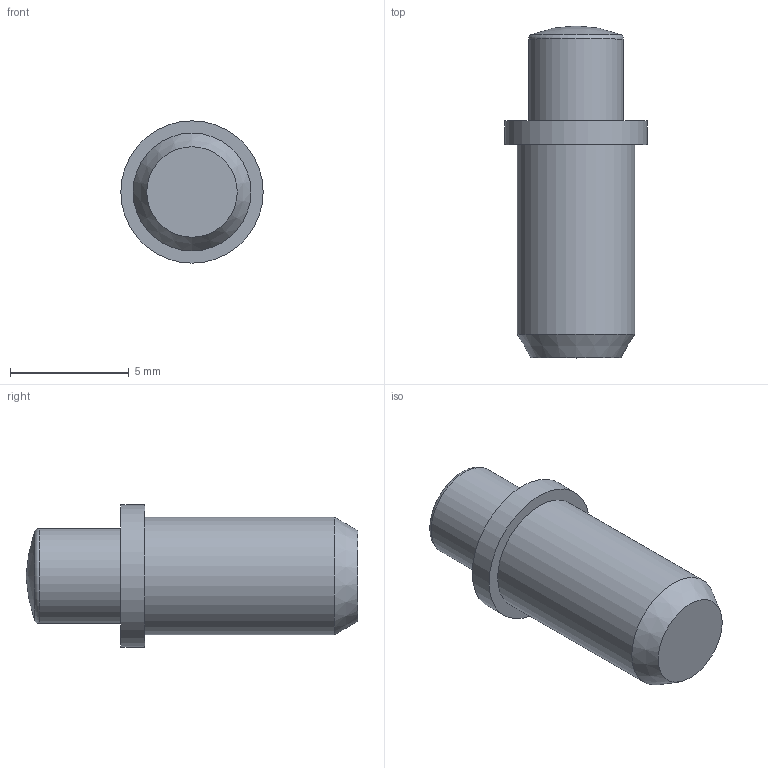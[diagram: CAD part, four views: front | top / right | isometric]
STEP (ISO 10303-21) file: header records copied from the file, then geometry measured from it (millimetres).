
FILE_DESCRIPTION (( 'STEP AP214' ), '1' );
FILE_NAME ('SPC4J.STEP', '2013-08-14T06:37:05', ( '' ), ( '' ), 'SwSTEP 2.0', 'SolidWorks 2012', '' );
FILE_SCHEMA (( 'AUTOMOTIVE_DESIGN' ));
Length unit declared in the file: millimetre
Products named in the file (1): SPC4J
Bounding box: 6 x 14 x 6 mm (x, y, z)
Volume: 246.4 mm3; surface area: 253.4 mm2
Topology: 1 solids, 1 shells, 9 faces, 14 edges, 9 vertices
Faces by surface type: cylinder 3, plane 3, cone 1, sphere 1, torus 1
Full cylindrical faces by diameter (mm): 4 x1, 4.97 x1, 6 x1
Entity records: 208 total; most frequent: DIRECTION 36, CARTESIAN_POINT 26, AXIS2_PLACEMENT_3D 18, EDGE_LOOP 16, ORIENTED_EDGE 16, FACE_OUTER_BOUND 13, ADVANCED_FACE 9, EDGE_CURVE 8
